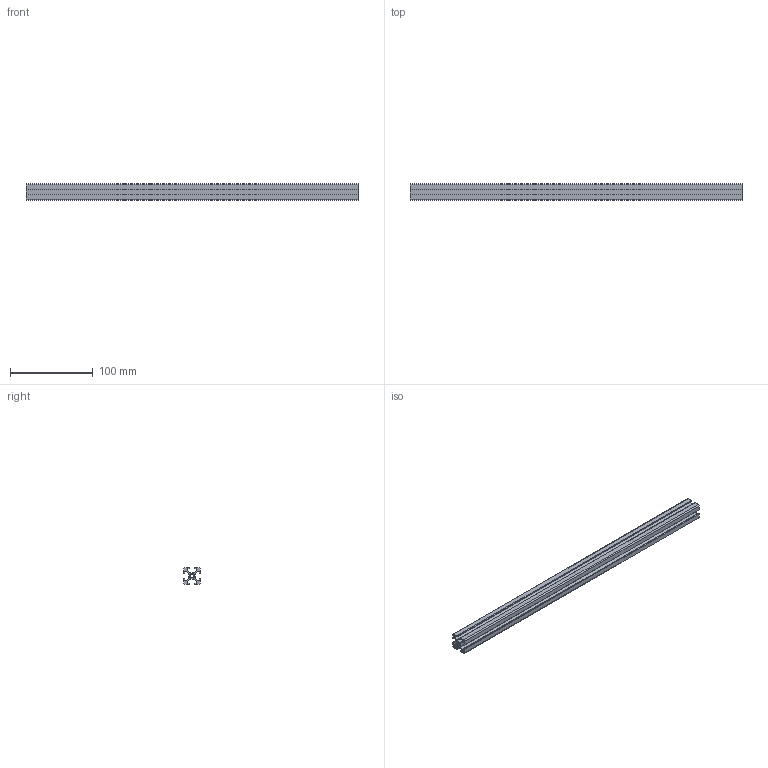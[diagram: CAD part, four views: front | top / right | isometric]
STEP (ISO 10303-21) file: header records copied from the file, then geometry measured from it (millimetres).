
FILE_DESCRIPTION(/* description */ ('STEP AP242 Edition 2','CAx-IF Rec.Pracs.---Representation and Presentation of Product Manufacturing Information (PMI)---4.0---2014-10-13','CAx-IF Rec.Pracs.---3D Tessellated Geometry---0.4---2014-09-14','2;1','CAx-IF Rec.Pracs.---User Defined Attributes---1.5---2016-08-15'),/* implementation_level */ '2;1');
FILE_NAME(/* name */ 'Assembly 1 - Part 8',/* time_stamp */ '2026-10-08T06:00:19Z',/* author */ (''),/* organization */ (''),/* preprocessor_version */ 'ST-DEVELOPER v20',/* originating_system */ 'ONSHAPE BY PTC INC, 1.221',/* authorisation */ ' ');
FILE_SCHEMA (('AP242_MANAGED_MODEL_BASED_3D_ENGINEERING_MIM_LF { 1 0 10303 442 3 1 4 }'));
Length unit declared in the file: metre
Products named in the file (1): Part 8
Bounding box: 400 x 20 x 20 mm (x, y, z)
Volume: 64998.1 mm3; surface area: 72707.7 mm2
Topology: 1 solids, 1 shells, 106 faces, 318 edges, 214 vertices
Faces by surface type: bspline 106
Entity records: 3822 total; most frequent: CARTESIAN_POINT 1181, ORIENTED_EDGE 636, DIRECTION 438, EDGE_CURVE 318, VERTEX_POINT 214, LINE 200, VECTOR 200, AXIS2_PLACEMENT_3D 119
